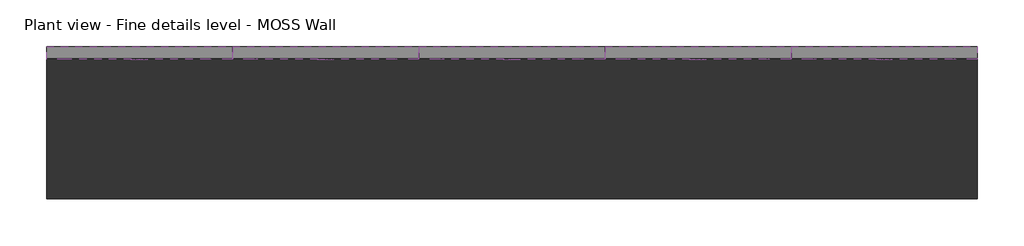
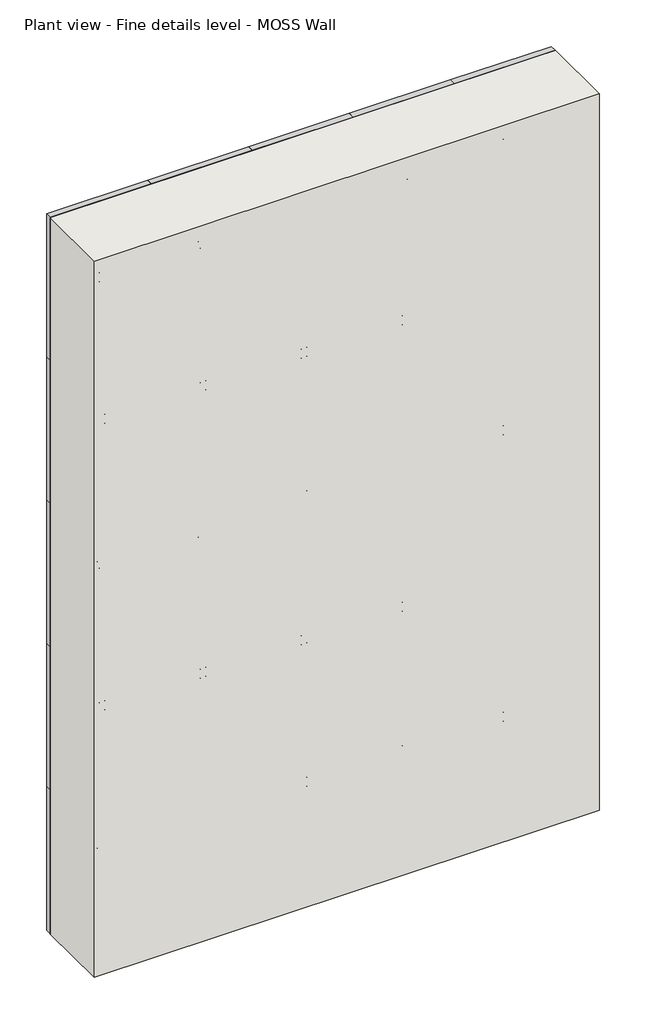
# One storey: 25 furniture elements, 1 wall.
"""IFC4 building model written with IfcOpenShell, lengths in millimetres."""

from ifc_helpers import new_model, si_unit, origin, origin_with_axes, place, context, project, spatial, polyline, outline, extrude, transform, mapped, element, save
from components import mw01_mw01_6ffa012e

model = new_model("IFC4")

# Units and contexts
model_context = context("Model", 3, world=origin())
ifc_project = project(units=[si_unit("LENGTHUNIT", "METRE", prefix="MILLI")], contexts=[model_context])

# Site, building, storey
site = spatial("IfcSite", under=ifc_project)
building = spatial("IfcBuilding", under=site)
storey = spatial("IfcBuildingStorey", under=building, Name="Plant view - Fine details level - MOSS Wall", Elevation=0.0)

# Furniture
placement = place(None, origin())
mw01_mw01_shape = mw01_mw01_6ffa012e(model_context)
element("IfcFurniture", 1, ObjectType="MW01 : MW01", at=placement, inside=storey, context=model_context, shape_type="MappedRepresentation", body=[
    mapped(mw01_mw01_shape, transform((3172.3860403, -538.0626129, 0.0336718), x_axis=(1.0, 0.0, 0.0), y_axis=(0.0, 1.0, 0.0), z_axis=(0.0, 0.0, 1.0))),
])
element("IfcFurniture", 2, ObjectType="MW01 : MW01", at=placement, inside=storey, context=model_context, shape_type="MappedRepresentation", body=[
    mapped(mw01_mw01_shape, transform((2772.3860403, -538.0626129, 0.0336718), x_axis=(1.0, 0.0, 0.0), y_axis=(0.0, 1.0, 0.0), z_axis=(0.0, 0.0, 1.0))),
])
element("IfcFurniture", 3, ObjectType="MW01 : MW01", at=placement, inside=storey, context=model_context, shape_type="MappedRepresentation", body=[
    mapped(mw01_mw01_shape, transform((2372.3860403, -538.0626129, 0.0336718), x_axis=(1.0, 0.0, 0.0), y_axis=(0.0, 1.0, 0.0), z_axis=(0.0, 0.0, 1.0))),
])
element("IfcFurniture", 4, ObjectType="MW01 : MW01", at=placement, inside=storey, context=model_context, shape_type="MappedRepresentation", body=[
    mapped(mw01_mw01_shape, transform((1972.3860403, -538.0626129, 0.0336718), x_axis=(1.0, 0.0, 0.0), y_axis=(0.0, 1.0, 0.0), z_axis=(0.0, 0.0, 1.0))),
])
element("IfcFurniture", 5, ObjectType="MW01 : MW01", at=placement, inside=storey, context=model_context, shape_type="MappedRepresentation", body=[
    mapped(mw01_mw01_shape, transform((1572.3860403, -538.0626129, 0.0336718), x_axis=(1.0, 0.0, 0.0), y_axis=(0.0, 1.0, 0.0), z_axis=(0.0, 0.0, 1.0))),
])
element("IfcFurniture", 6, ObjectType="MW01 : MW01", at=placement, inside=storey, context=model_context, shape_type="MappedRepresentation", body=[
    mapped(mw01_mw01_shape, transform((3172.3860403, -538.0626129, 600.0336718), x_axis=(1.0, 0.0, 0.0), y_axis=(0.0, 1.0, 0.0), z_axis=(0.0, 0.0, 1.0))),
])
element("IfcFurniture", 7, ObjectType="MW01 : MW01", at=placement, inside=storey, context=model_context, shape_type="MappedRepresentation", body=[
    mapped(mw01_mw01_shape, transform((2772.3860403, -538.0626129, 600.0336718), x_axis=(1.0, 0.0, 0.0), y_axis=(0.0, 1.0, 0.0), z_axis=(0.0, 0.0, 1.0))),
])
element("IfcFurniture", 8, ObjectType="MW01 : MW01", at=placement, inside=storey, context=model_context, shape_type="MappedRepresentation", body=[
    mapped(mw01_mw01_shape, transform((2372.3860403, -538.0626129, 600.0336718), x_axis=(1.0, 0.0, 0.0), y_axis=(0.0, 1.0, 0.0), z_axis=(0.0, 0.0, 1.0))),
])
element("IfcFurniture", 9, ObjectType="MW01 : MW01", at=placement, inside=storey, context=model_context, shape_type="MappedRepresentation", body=[
    mapped(mw01_mw01_shape, transform((1972.3860403, -538.0626129, 600.0336718), x_axis=(1.0, 0.0, 0.0), y_axis=(0.0, 1.0, 0.0), z_axis=(0.0, 0.0, 1.0))),
])
element("IfcFurniture", 10, ObjectType="MW01 : MW01", at=placement, inside=storey, context=model_context, shape_type="MappedRepresentation", body=[
    mapped(mw01_mw01_shape, transform((1572.3860403, -538.0626129, 600.0336718), x_axis=(1.0, 0.0, 0.0), y_axis=(0.0, 1.0, 0.0), z_axis=(0.0, 0.0, 1.0))),
])
element("IfcFurniture", 11, ObjectType="MW01 : MW01", at=placement, inside=storey, context=model_context, shape_type="MappedRepresentation", body=[
    mapped(mw01_mw01_shape, transform((3172.3860403, -538.0626129, 1200.0336718), x_axis=(1.0, 0.0, 0.0), y_axis=(0.0, 1.0, 0.0), z_axis=(0.0, 0.0, 1.0))),
])
element("IfcFurniture", 12, ObjectType="MW01 : MW01", at=placement, inside=storey, context=model_context, shape_type="MappedRepresentation", body=[
    mapped(mw01_mw01_shape, transform((2772.3860403, -538.0626129, 1200.0336718), x_axis=(1.0, 0.0, 0.0), y_axis=(0.0, 1.0, 0.0), z_axis=(0.0, 0.0, 1.0))),
])
element("IfcFurniture", 13, ObjectType="MW01 : MW01", at=placement, inside=storey, context=model_context, shape_type="MappedRepresentation", body=[
    mapped(mw01_mw01_shape, transform((2372.3860403, -538.0626129, 1200.0336718), x_axis=(1.0, 0.0, 0.0), y_axis=(0.0, 1.0, 0.0), z_axis=(0.0, 0.0, 1.0))),
])
element("IfcFurniture", 14, ObjectType="MW01 : MW01", at=placement, inside=storey, context=model_context, shape_type="MappedRepresentation", body=[
    mapped(mw01_mw01_shape, transform((1972.3860403, -538.0626129, 1200.0336718), x_axis=(1.0, 0.0, 0.0), y_axis=(0.0, 1.0, 0.0), z_axis=(0.0, 0.0, 1.0))),
])
element("IfcFurniture", 15, ObjectType="MW01 : MW01", at=placement, inside=storey, context=model_context, shape_type="MappedRepresentation", body=[
    mapped(mw01_mw01_shape, transform((1572.3860403, -538.0626129, 1200.0336718), x_axis=(1.0, 0.0, 0.0), y_axis=(0.0, 1.0, 0.0), z_axis=(0.0, 0.0, 1.0))),
])
element("IfcFurniture", 16, ObjectType="MW01 : MW01", at=placement, inside=storey, context=model_context, shape_type="MappedRepresentation", body=[
    mapped(mw01_mw01_shape, transform((3172.3860403, -538.0626129, 1800.0336718), x_axis=(1.0, 0.0, 0.0), y_axis=(0.0, 1.0, 0.0), z_axis=(0.0, 0.0, 1.0))),
])
element("IfcFurniture", 17, ObjectType="MW01 : MW01", at=placement, inside=storey, context=model_context, shape_type="MappedRepresentation", body=[
    mapped(mw01_mw01_shape, transform((2772.3860403, -538.0626129, 1800.0336718), x_axis=(1.0, 0.0, 0.0), y_axis=(0.0, 1.0, 0.0), z_axis=(0.0, 0.0, 1.0))),
])
element("IfcFurniture", 18, ObjectType="MW01 : MW01", at=placement, inside=storey, context=model_context, shape_type="MappedRepresentation", body=[
    mapped(mw01_mw01_shape, transform((2372.3860403, -538.0626129, 1800.0336718), x_axis=(1.0, 0.0, 0.0), y_axis=(0.0, 1.0, 0.0), z_axis=(0.0, 0.0, 1.0))),
])
element("IfcFurniture", 19, ObjectType="MW01 : MW01", at=placement, inside=storey, context=model_context, shape_type="MappedRepresentation", body=[
    mapped(mw01_mw01_shape, transform((1972.3860403, -538.0626129, 1800.0336718), x_axis=(1.0, 0.0, 0.0), y_axis=(0.0, 1.0, 0.0), z_axis=(0.0, 0.0, 1.0))),
])
element("IfcFurniture", 20, ObjectType="MW01 : MW01", at=placement, inside=storey, context=model_context, shape_type="MappedRepresentation", body=[
    mapped(mw01_mw01_shape, transform((1572.3860403, -538.0626129, 1800.0336718), x_axis=(1.0, 0.0, 0.0), y_axis=(0.0, 1.0, 0.0), z_axis=(0.0, 0.0, 1.0))),
])
element("IfcFurniture", 21, ObjectType="MW01 : MW01", at=placement, inside=storey, context=model_context, shape_type="MappedRepresentation", body=[
    mapped(mw01_mw01_shape, transform((3172.3860403, -538.0626129, 2400.0336718), x_axis=(1.0, 0.0, 0.0), y_axis=(0.0, 1.0, 0.0), z_axis=(0.0, 0.0, 1.0))),
])
element("IfcFurniture", 22, ObjectType="MW01 : MW01", at=placement, inside=storey, context=model_context, shape_type="MappedRepresentation", body=[
    mapped(mw01_mw01_shape, transform((2772.3860403, -538.0626129, 2400.0336718), x_axis=(1.0, 0.0, 0.0), y_axis=(0.0, 1.0, 0.0), z_axis=(0.0, 0.0, 1.0))),
])
element("IfcFurniture", 23, ObjectType="MW01 : MW01", at=placement, inside=storey, context=model_context, shape_type="MappedRepresentation", body=[
    mapped(mw01_mw01_shape, transform((2372.3860403, -538.0626129, 2400.0336718), x_axis=(1.0, 0.0, 0.0), y_axis=(0.0, 1.0, 0.0), z_axis=(0.0, 0.0, 1.0))),
])
element("IfcFurniture", 24, ObjectType="MW01 : MW01", at=placement, inside=storey, context=model_context, shape_type="MappedRepresentation", body=[
    mapped(mw01_mw01_shape, transform((1972.3860403, -538.0626129, 2400.0336718), x_axis=(1.0, 0.0, 0.0), y_axis=(0.0, 1.0, 0.0), z_axis=(0.0, 0.0, 1.0))),
])
element("IfcFurniture", 25, ObjectType="MW01 : MW01", at=placement, inside=storey, context=model_context, shape_type="MappedRepresentation", body=[
    mapped(mw01_mw01_shape, transform((1572.3860403, -538.0626129, 2400.0336718), x_axis=(1.0, 0.0, 0.0), y_axis=(0.0, 1.0, 0.0), z_axis=(0.0, 0.0, 1.0))),
])

# Wall
element("IfcWall", 26, ObjectType="Generico - 30 cm", at=placement, inside=storey, context=model_context, shape_type="SweptSolid", body=[
    extrude(outline(polyline([(3372.41991, -838.0626129), (1372.41991, -838.0626129), (1372.41991, -538.0626129), (3372.41991, -538.0626129), (3372.41991, -838.0626129)])), origin_with_axes(), (0.0, 0.0, 1.0), 3000.0),
])

save(model, "model.ifc")
